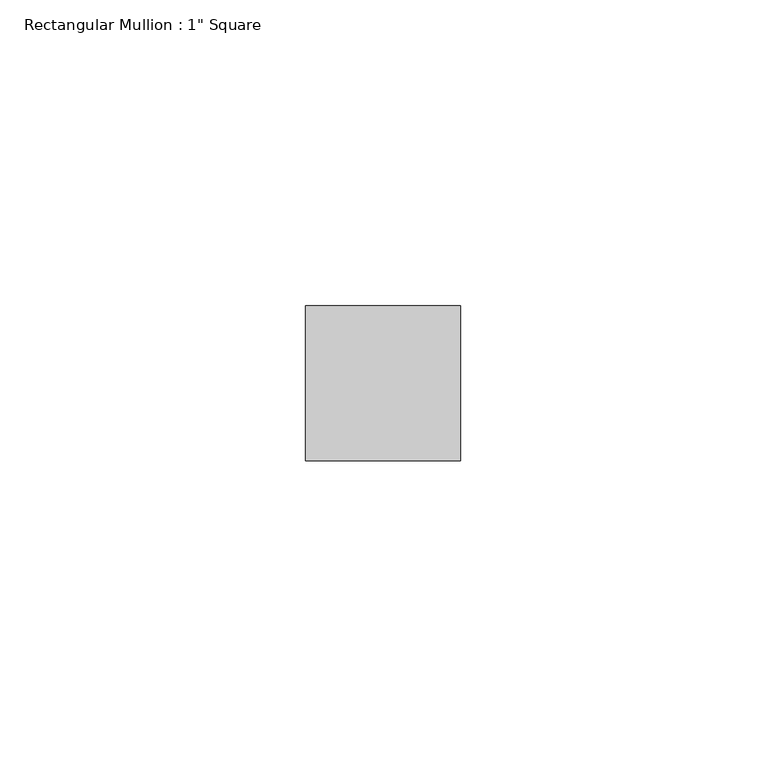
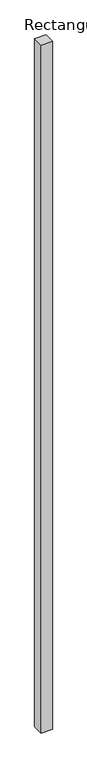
"""IFC4 building model written with IfcOpenShell, lengths in millimetres: member geometry."""

from ifc_helpers import new_model, si_unit, frame, origin, place, context, project, spatial, polyline, outline, extrude, source, transform, mapped, element, save


def member_55ed2e9f(model_context):
    return source(origin(), model_context, "Body", "SweptSolid", [
        extrude(outline(polyline([(0.0, 12.7), (0.0, -12.7), (-25.4, -12.7), (-25.4, 12.7), (0.0, 12.7)])), frame((0.0, 0.0, -1650.8742153), z_axis=(0.0, 0.0, 1.0), x_axis=(1.0, 0.0, 0.0)), (0.0, 0.0, 1.0), 1650.8742153),
    ])


if __name__ == "__main__":
    model = new_model("IFC4")
    model_context = context("Model", 3, world=origin())
    ifc_project = project(units=[si_unit("LENGTHUNIT", "METRE", prefix="MILLI")], contexts=[model_context])
    site = spatial("IfcSite", under=ifc_project)
    building = spatial("IfcBuilding", under=site)
    placement = place(None, origin())
    member_shape = member_55ed2e9f(model_context)
    element("IfcMember", 1, ObjectType="Rectangular Mullion : 1\" Square", at=placement, inside=building, context=model_context, shape_type="MappedRepresentation", body=[
        mapped(member_shape, transform((0.0, 0.0, 0.0), x_axis=(1.0, 0.0, 0.0), y_axis=(0.0, 1.0, 0.0), z_axis=(0.0, 0.0, 1.0))),
    ])
    save(model, "model.ifc")
